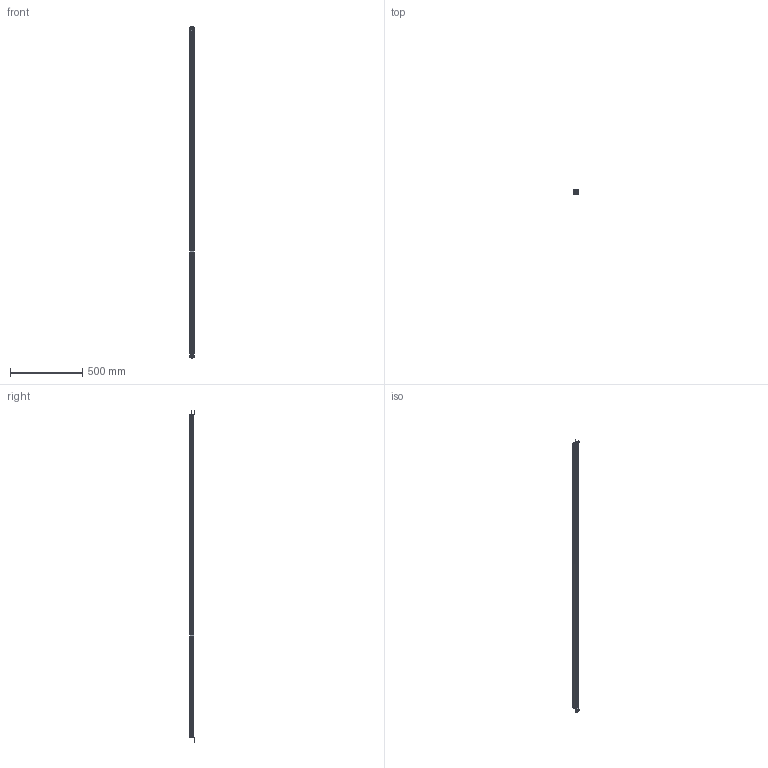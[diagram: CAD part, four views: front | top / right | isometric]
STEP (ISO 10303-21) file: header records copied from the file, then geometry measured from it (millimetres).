
FILE_DESCRIPTION (( 'STEP AP203' ), '1' );
FILE_NAME ('KT40-562200.STEP', '2022-08-26T02:46:41', ( '微软用户' ), ( '微软中国' ), 'SwSTEP 2.0', 'SolidWorks 2020', '' );
FILE_SCHEMA (( 'CONFIG_CONTROL_DESIGN' ));
Length unit declared in the file: millimetre
Products named in the file (4): 光同步29X29 出线塑料盖1; KT40-562200; 光同步29X29 出线塑料盖2; 29x29倰第
Assembly tree (3 placements, depth 2):
  KT40-562200
    29x29倰第
    光同步29X29 出线塑料盖1
    光同步29X29 出线塑料盖2
Bounding box: 30 x 34 x 2305 mm (x, y, z)
Volume: 1669109.8 mm3; surface area: 321502.5 mm2
Topology: 4 solids, 12 shells, 661 faces, 1760 edges, 1138 vertices
Faces by surface type: cylinder 299, plane 269, bspline 54, cone 39
Entity records: 30323 total; most frequent: CARTESIAN_POINT 13492, ORIENTED_EDGE 3510, DIRECTION 3352, EDGE_CURVE 1758, AXIS2_PLACEMENT_3D 1220, VERTEX_POINT 1138, LINE 912, VECTOR 912
